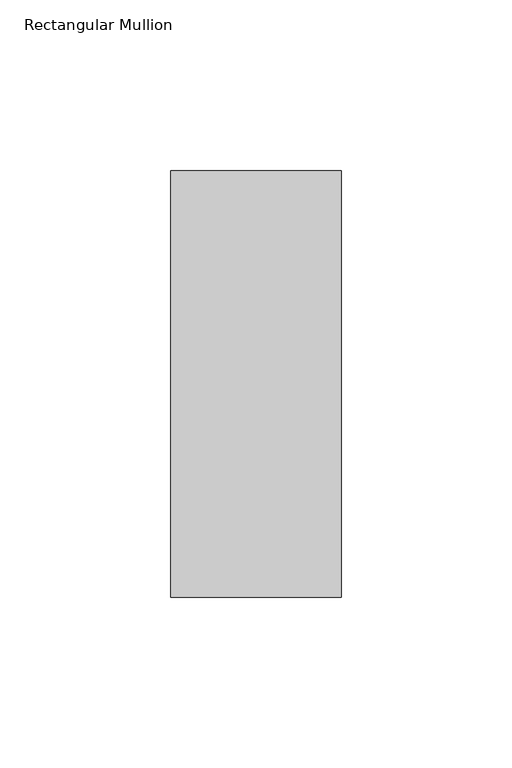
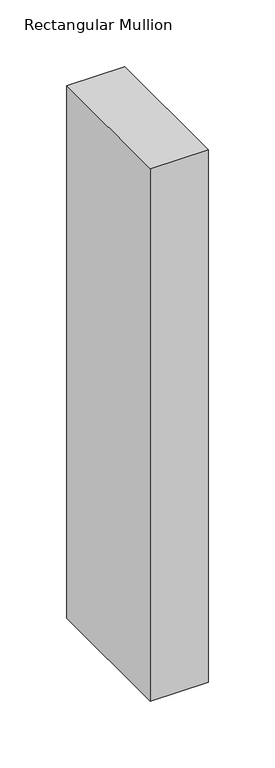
"""IFC4 building model written with IfcOpenShell, lengths in millimetres: member geometry, Rectangular Mullion : DucoSun Cubic Design profile 50x125 for louvre 500."""

from ifc_helpers import new_model, si_unit, frame, origin, place, context, project, spatial, polyline, outline, extrude, source, transform, mapped, element, save


def rectangular_mullion_6cfd7e29(model_context):
    return source(origin(), model_context, "Body", "SweptSolid", [
        extrude(outline(polyline([(-50.0, -187.5), (0.0, -187.5), (0.0, -312.5), (-50.0, -312.5), (-50.0, -187.5)])), frame((0.0, 0.0, -486.4), z_axis=(0.0, 0.0, 1.0), x_axis=(1.0, 0.0, 0.0)), (0.0, 0.0, 1.0), 486.4),
    ])


if __name__ == "__main__":
    model = new_model("IFC4")
    model_context = context("Model", 3, world=origin())
    ifc_project = project(units=[si_unit("LENGTHUNIT", "METRE", prefix="MILLI")], contexts=[model_context])
    site = spatial("IfcSite", under=ifc_project)
    building = spatial("IfcBuilding", under=site)
    placement = place(None, origin())
    rectangular_mullion_shape = rectangular_mullion_6cfd7e29(model_context)
    element("IfcMember", 1, ObjectType="Rectangular Mullion : DucoSun Cubic Design profile 50x125 for louvre 500", at=placement, inside=building, context=model_context, shape_type="MappedRepresentation", body=[
        mapped(rectangular_mullion_shape, transform((0.0, 0.0, 0.0), x_axis=(1.0, 0.0, 0.0), y_axis=(0.0, 1.0, 0.0), z_axis=(0.0, 0.0, 1.0))),
    ])
    save(model, "model.ifc")
